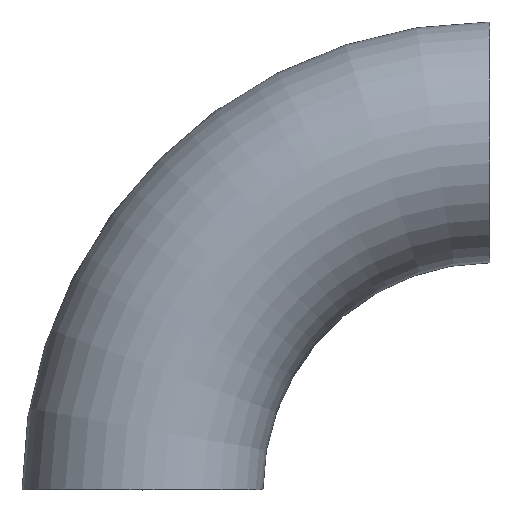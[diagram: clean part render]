
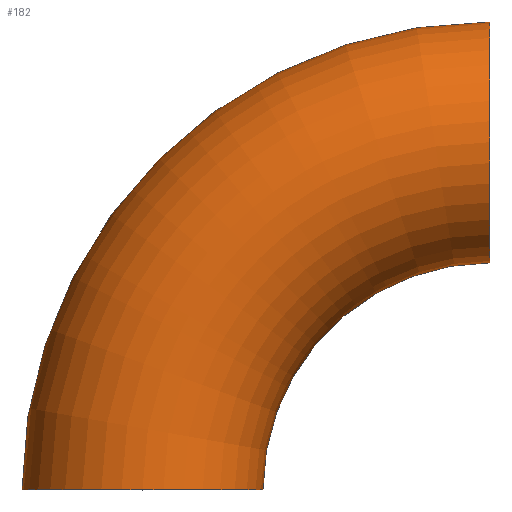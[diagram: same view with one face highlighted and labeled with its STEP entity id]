
A CAD part, top view. The second image highlights one B-rep face of the part: STEP entity #182.
In plain terms, the highlighted toroidal (fillet/blend) face has major radius 150 mm and minor radius 52 mm.
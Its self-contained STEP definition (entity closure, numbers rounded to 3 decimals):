
#15 = DIRECTION ( 'NONE',  ( 1., 0., 0. ) ) ;
#16 = CARTESIAN_POINT ( 'NONE',  ( 150., 150., 0. ) ) ;
#19 = DIRECTION ( 'NONE',  ( 1., 0., 0. ) ) ;
#21 = VERTEX_POINT ( 'NONE', #26 ) ;
#26 = CARTESIAN_POINT ( 'NONE',  ( -52., 0., 0. ) ) ;
#34 = VERTEX_POINT ( 'NONE', #229 ) ;
#50 = DIRECTION ( 'NONE',  ( 0., 1., 0. ) ) ;
#55 = DIRECTION ( 'NONE',  ( 0., 0., 1. ) ) ;
#56 = ORIENTED_EDGE ( 'NONE', *, *, #206, .F. ) ;
#68 = CARTESIAN_POINT ( 'NONE',  ( 52., 0., 0. ) ) ;
#72 = TOROIDAL_SURFACE ( 'NONE', #104, 150., 52. ) ;
#74 = EDGE_CURVE ( 'NONE', #21, #181, #105, .T. ) ;
#85 = CARTESIAN_POINT ( 'NONE',  ( 0., 0., 0. ) ) ;
#87 = DIRECTION ( 'NONE',  ( 0., 0., 1. ) ) ;
#104 = AXIS2_PLACEMENT_3D ( 'NONE', #189, #113, #15 ) ;
#105 = CIRCLE ( 'NONE', #200, 52. ) ;
#110 = EDGE_LOOP ( 'NONE', ( #204, #117, #156, #56 ) ) ;
#113 = DIRECTION ( 'NONE',  ( 0., 0., 1. ) ) ;
#114 = DIRECTION ( 'NONE',  ( 0., 0., 1. ) ) ;
#117 = ORIENTED_EDGE ( 'NONE', *, *, #245, .T. ) ;
#125 = CIRCLE ( 'NONE', #152, 52. ) ;
#130 = CARTESIAN_POINT ( 'NONE',  ( 150., 0., 0. ) ) ;
#133 = AXIS2_PLACEMENT_3D ( 'NONE', #130, #87, #211 ) ;
#145 = VERTEX_POINT ( 'NONE', #208 ) ;
#152 = AXIS2_PLACEMENT_3D ( 'NONE', #16, #162, #114 ) ;
#156 = ORIENTED_EDGE ( 'NONE', *, *, #74, .T. ) ;
#157 = CIRCLE ( 'NONE', #133, 98. ) ;
#162 = DIRECTION ( 'NONE',  ( 1., 0., 0. ) ) ;
#164 = FACE_OUTER_BOUND ( 'NONE', #110, .T. ) ;
#171 = CARTESIAN_POINT ( 'NONE',  ( 150., 0., 0. ) ) ;
#181 = VERTEX_POINT ( 'NONE', #68 ) ;
#182 = ADVANCED_FACE ( 'NONE', ( #164 ), #72, .T. ) ;
#185 = AXIS2_PLACEMENT_3D ( 'NONE', #171, #55, #19 ) ;
#187 = DIRECTION ( 'NONE',  ( 0., 0., 1. ) ) ;
#189 = CARTESIAN_POINT ( 'NONE',  ( 150., 0., 0. ) ) ;
#197 = EDGE_CURVE ( 'NONE', #34, #145, #125, .T. ) ;
#200 = AXIS2_PLACEMENT_3D ( 'NONE', #85, #50, #187 ) ;
#204 = ORIENTED_EDGE ( 'NONE', *, *, #197, .F. ) ;
#206 = EDGE_CURVE ( 'NONE', #145, #181, #157, .T. ) ;
#208 = CARTESIAN_POINT ( 'NONE',  ( 150., 98., 0. ) ) ;
#211 = DIRECTION ( 'NONE',  ( 1., 0., 0. ) ) ;
#229 = CARTESIAN_POINT ( 'NONE',  ( 150., 202., 0. ) ) ;
#240 = CIRCLE ( 'NONE', #185, 202. ) ;
#245 = EDGE_CURVE ( 'NONE', #34, #21, #240, .T. ) ;
